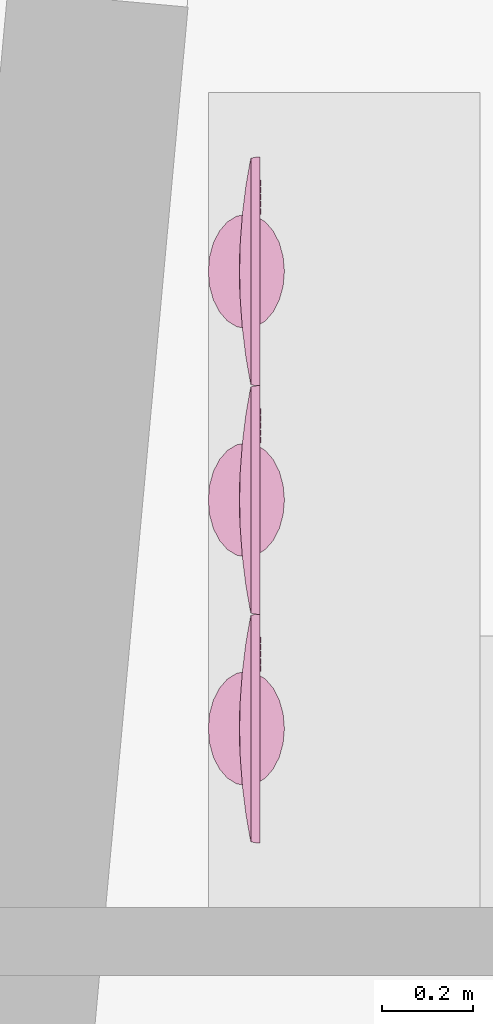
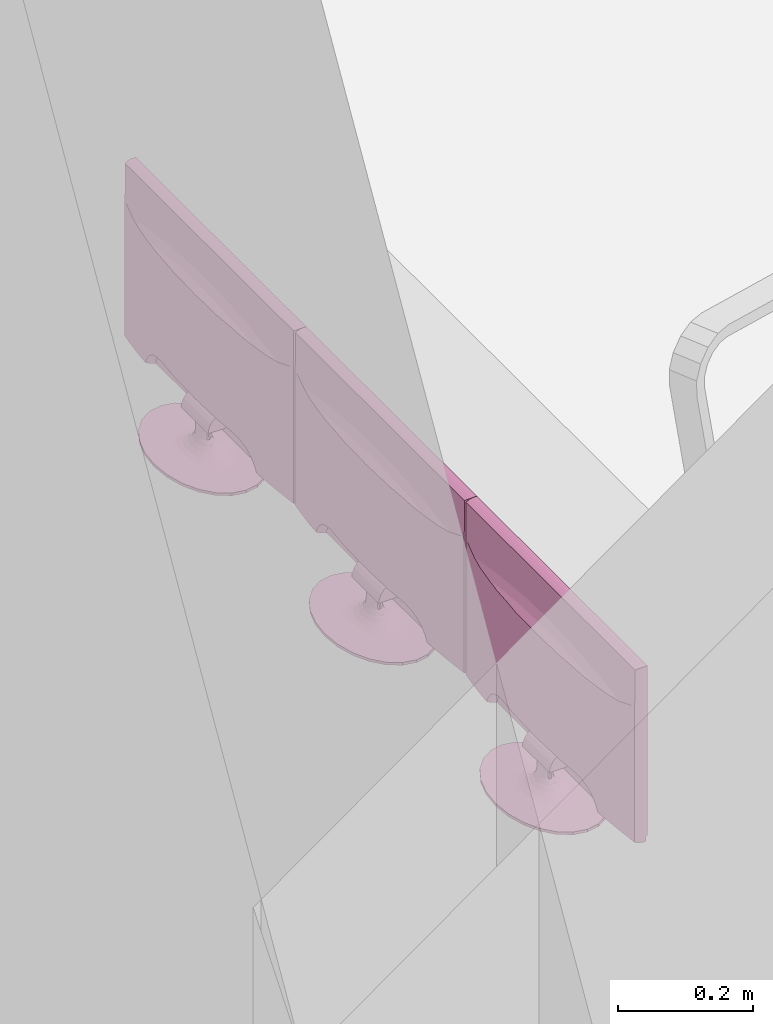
# One storey, part 34 of 36: 3 furnishings.
"""IFC2X3 building model written with IfcOpenShell, lengths in millimetres."""

import ifcopenshell
import ifcopenshell.guid

model = None  # the IFC model being written
_history = None  # IfcOwnerHistory: only IFC2X3 demands one
_inside = {}  # id of a spatial element -> (the spatial element, [elements in it])
_under = {}  # id of a project, library or spatial element -> (it, [spatial elements below it])
_declared = {}  # id of a project -> (the project, [libraries it declares])
_typed = {}  # id of a type object -> (the type object, [elements of that type])
_made_of = {}  # id of a material, layer set ... -> (it, [elements and type objects made of it])


def new_model(schema):
    """Start an empty IFC model of exactly this schema.

    Asked for "IFC4X3", IfcOpenShell would pick the latest addendum, in which some entities
    have other attributes; the version numbers below select the first issue.
    IFC2X3 requires an IfcOwnerHistory on every rooted entity: one is made here for all.
    """
    global model, _history
    if schema == "IFC4X3":
        model = ifcopenshell.file(schema_version=(4, 3, 0, 0))
    else:
        model = ifcopenshell.file(schema=schema)
    _inside.clear()
    _under.clear()
    _declared.clear()
    _typed.clear()
    _made_of.clear()
    _history = None
    if model.schema == "IFC2X3":
        org = make("IfcOrganization", Name="unknown")
        user = make(
            "IfcPersonAndOrganization",
            ThePerson=make("IfcPerson", FamilyName="unknown"),
            TheOrganization=org,
        )
        app = make(
            "IfcApplication",
            ApplicationDeveloper=org,
            Version="unknown",
            ApplicationFullName="unknown",
            ApplicationIdentifier="unknown",
        )
        _history = make(
            "IfcOwnerHistory",
            OwningUser=user,
            OwningApplication=app,
            ChangeAction="ADDED",
            CreationDate=0,
        )
    return model


def make(cls, **values):
    """One entity of the class cls with the attributes given. An attribute that is None is left unset."""
    return model.create_entity(
        cls, **{name: value for name, value in values.items() if value is not None}
    )


def entity(cls, *values):
    """Any entity or typed value of the class cls, its attributes in the order of the schema. None: left unset."""
    e = model.create_entity(cls)
    for i, value in enumerate(values):
        if value is not None:
            e[i] = value
    return e


def rooted(cls, **values):
    """An entity with a GlobalId (a new one), such as an element, a storey or a relation."""
    return make(cls, GlobalId=ifcopenshell.guid.new(), OwnerHistory=_history, **values)


def si_unit(unit_type, name, prefix=None):
    """IfcSIUnit, for example si_unit("LENGTHUNIT", "METRE", prefix="MILLI")."""
    return make("IfcSIUnit", UnitType=unit_type, Prefix=prefix, Name=name)


def converted_unit(unit_type, name, factor, base, dimensions=None, offset=None):
    """IfcConversionBasedUnit, such as the inch: factor (a typed value) times the base unit."""
    return make(
        "IfcConversionBasedUnit"
        if offset is None
        else "IfcConversionBasedUnitWithOffset",
        ConversionOffset=offset,
        Dimensions=None
        if dimensions is None
        else entity("IfcDimensionalExponents", *dimensions),
        UnitType=unit_type,
        Name=name,
        ConversionFactor=make(
            "IfcMeasureWithUnit", ValueComponent=factor, UnitComponent=base
        ),
    )


def money_unit(currency):
    """IfcMonetaryUnit."""
    return make("IfcMonetaryUnit", Currency=currency)


def assignment(units):
    """IfcUnitAssignment: the units of a project."""
    return None if units is None else make("IfcUnitAssignment", Units=units)


def point(xyz):
    """IfcCartesianPoint."""
    return None if xyz is None else make("IfcCartesianPoint", Coordinates=xyz)


def direction(xyz):
    """IfcDirection."""
    return None if xyz is None else make("IfcDirection", DirectionRatios=xyz)


def frame(location, z_axis=None, x_axis=None):
    """IfcAxis2Placement3D, a coordinate frame: its origin and axes. An axis left out is left unset."""
    return make(
        "IfcAxis2Placement3D",
        Location=point(location),
        Axis=direction(z_axis),
        RefDirection=direction(x_axis),
    )


def origin_with_axes():
    """The frame at (0, 0, 0) with the z axis (0, 0, 1) and the x axis (1, 0, 0) written out."""
    return frame((0.0, 0.0, 0.0), z_axis=(0.0, 0.0, 1.0), x_axis=(1.0, 0.0, 0.0))


def place(relative_to, where):
    """IfcLocalPlacement: puts the frame where relative to a parent placement (None: the world)."""
    return make(
        "IfcLocalPlacement", PlacementRelTo=relative_to, RelativePlacement=where
    )


def context(
    kind, dimensions, precision=None, world=None, true_north=None, identifier=None
):
    """IfcGeometricRepresentationContext, for example the 3D "Model" context."""
    return make(
        "IfcGeometricRepresentationContext",
        ContextIdentifier=identifier,
        ContextType=kind,
        CoordinateSpaceDimension=dimensions,
        Precision=precision,
        WorldCoordinateSystem=world,
        TrueNorth=true_north,
    )


def subcontext(parent, identifier, kind, view, scale=None):
    """IfcGeometricRepresentationSubContext, for example "Body" below "Model"."""
    return make(
        "IfcGeometricRepresentationSubContext",
        ContextIdentifier=identifier,
        ContextType=kind,
        ParentContext=parent,
        TargetScale=scale,
        TargetView=view,
    )


def project(units=None, contexts=None):
    """IfcProject with its units and contexts."""
    return rooted(
        "IfcProject",
        Name="project",
        RepresentationContexts=contexts,
        UnitsInContext=assignment(units),
    )


def spatial(cls, under=None, at=None, **own):
    """A site, building, storey or space (cls), placed at a placement, below another one or the project."""
    s = rooted(cls, ObjectPlacement=at, **own)
    if under is not None:
        _under.setdefault(under.id(), (under, []))[1].append(s)
    return s


def faces_of(points, faces, orient=None, outer=None):
    """IfcFace entities. A face is a list of loops; a loop is a list of indices into points, from 0.

    orient and outer hold one flag for each loop. By default every Orientation is true, the
    first loop of a face is its IfcFaceOuterBound and the others are IfcFaceBound.
    """
    made = []
    for i, loops in enumerate(faces):
        bounds = []
        for j, loop in enumerate(loops):
            is_outer = j == 0 if outer is None else outer[i][j]
            bounds.append(
                make(
                    "IfcFaceOuterBound" if is_outer else "IfcFaceBound",
                    Bound=make("IfcPolyLoop", Polygon=[points[k] for k in loop]),
                    Orientation=True if orient is None else orient[i][j],
                )
            )
        made.append(make("IfcFace", Bounds=bounds))
    return made


def faceted_brep(points, faces, orient=None, outer=None, voids=None):
    """IfcFacetedBrep: a solid bounded by flat faces; with voids (closed shells), ...WithVoids."""
    shared = [point(p) for p in points]
    hull = make("IfcClosedShell", CfsFaces=faces_of(shared, faces, orient, outer))
    if voids is None:
        return make("IfcFacetedBrep", Outer=hull)
    return make(
        "IfcFacetedBrepWithVoids",
        Outer=hull,
        Voids=[
            make(cls, CfsFaces=faces_of(shared, fs, o, b)) for cls, fs, o, b in voids
        ],
    )


def shape(context_of_items, identifier, shape_type, items):
    """IfcShapeRepresentation: the items that make up one representation, for example the "Body"."""
    return make(
        "IfcShapeRepresentation",
        ContextOfItems=context_of_items,
        RepresentationIdentifier=identifier,
        RepresentationType=shape_type,
        Items=items,
    )


def source(mapping_origin, context_of_items, identifier, shape_type, items):
    """IfcRepresentationMap: a shape defined once, which mapped items show again and again."""
    return make(
        "IfcRepresentationMap",
        MappingOrigin=mapping_origin,
        MappedRepresentation=shape(context_of_items, identifier, shape_type, items),
    )


def transform(
    local_origin,
    x_axis=None,
    y_axis=None,
    z_axis=None,
    scale=None,
    scale2=None,
    scale3=None,
    uniform=True,
):
    """IfcCartesianTransformationOperator3D, or its non-uniform kind. x_axis, y_axis, z_axis: its Axis1, 2, 3."""
    if uniform:
        return make(
            "IfcCartesianTransformationOperator3D",
            Axis1=direction(x_axis),
            Axis2=direction(y_axis),
            LocalOrigin=point(local_origin),
            Scale=scale,
            Axis3=direction(z_axis),
        )
    return make(
        "IfcCartesianTransformationOperator3DnonUniform",
        Axis1=direction(x_axis),
        Axis2=direction(y_axis),
        LocalOrigin=point(local_origin),
        Scale=scale,
        Axis3=direction(z_axis),
        Scale2=scale2,
        Scale3=scale3,
    )


def mapped(mapping_source, mapping_target):
    """IfcMappedItem: shows the shape of a source again, moved by a transform."""
    return make(
        "IfcMappedItem", MappingSource=mapping_source, MappingTarget=mapping_target
    )


def material(Name=None, Category=None):
    """IfcMaterial."""
    return make("IfcMaterial", Name=Name, Category=Category)


def material_list(materials):
    """IfcMaterialList."""
    return make("IfcMaterialList", Materials=materials)


def made_of(thing, what):
    """Note that an element or type object is made of a material, layer set ...; save() writes the relation."""
    if what is not None:
        _made_of.setdefault(what.id(), (what, []))[1].append(thing)
    return thing


def type_object(cls, material=None, **own):
    """A type object (cls), such as IfcWallType, which elements share."""
    return made_of(rooted(cls, **own), material)


def element(
    cls,
    number,
    at=None,
    inside=None,
    cuts=None,
    type_object=None,
    material=None,
    context=None,
    identifier="Body",
    shape_type=None,
    held_by="IfcProductDefinitionShape",
    body=None,
    shapes=None,
    **own,
):
    """One element of the class cls, such as IfcWall. Its Tag is "e" and its number.

    at: its placement. inside: the storey or other place that contains it. cuts: it is an
    opening in that element (IfcRelVoidsElement). A single representation is given by context,
    identifier, shape_type and body (its items); several are given by shapes. held_by: the class
    of the entity that holds the representations. save() writes the other relations.
    """
    e = rooted(cls, Tag="e%d" % number, ObjectPlacement=at, **own)
    if body is not None:
        shapes = [shape(context, identifier, shape_type, body)]
    if shapes is not None:
        e.Representation = make(held_by, Representations=shapes)
    if inside is not None:
        _inside.setdefault(inside.id(), (inside, []))[1].append(e)
    if cuts is not None:
        rooted(
            "IfcRelVoidsElement", RelatingBuildingElement=cuts, RelatedOpeningElement=e
        )
    if type_object is not None:
        _typed.setdefault(type_object.id(), (type_object, []))[1].append(e)
    return made_of(e, material)


def aggregate(whole, parts):
    """IfcRelAggregates: a whole, such as a stair, and the parts it consists of."""
    return rooted("IfcRelAggregates", RelatingObject=whole, RelatedObjects=parts)


def save(model, path):
    """Write the relations noted so far, then the file.

    IfcRelAggregates (storeys below a building ...), IfcRelContainedInSpatialStructure (elements
    in a storey), IfcRelDefinesByType, IfcRelAssociatesMaterial and IfcRelDeclares: one each for
    every whole, place, type object, material and project.
    """
    for whole, parts in _under.values():
        aggregate(whole, parts)
    for where, things in _inside.values():
        rooted(
            "IfcRelContainedInSpatialStructure",
            RelatedElements=things,
            RelatingStructure=where,
        )
    for kind, things in _typed.values():
        rooted("IfcRelDefinesByType", RelatedObjects=things, RelatingType=kind)
    for what, things in _made_of.values():
        rooted("IfcRelAssociatesMaterial", RelatedObjects=things, RelatingMaterial=what)
    for by, libraries in _declared.values():
        rooted("IfcRelDeclares", RelatingContext=by, RelatedDefinitions=libraries)
    model.write(path)


model = new_model("IFC2X3")

# Units and contexts
model_context = context("Model", 3, precision=1e-05, world=origin_with_axes(), true_north=direction((0.0, 1.0)))
body_context = subcontext(model_context, "Body", "Model", "MODEL_VIEW")
ifc_project = project(units=[si_unit("LENGTHUNIT", "METRE", prefix="MILLI"), si_unit("AREAUNIT", "SQUARE_METRE"), si_unit("VOLUMEUNIT", "CUBIC_METRE"), converted_unit("PLANEANGLEUNIT", "DEGREE", entity("IfcPlaneAngleMeasure", 0.0174532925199), si_unit("PLANEANGLEUNIT", "RADIAN"), dimensions=[0, 0, 0, 0, 0, 0, 0]), si_unit("SOLIDANGLEUNIT", "STERADIAN"), money_unit("USD"), converted_unit("TIMEUNIT", "Year", entity("IfcTimeMeasure", 31556926.0), si_unit("TIMEUNIT", "SECOND"), dimensions=[0, 0, 0, 0, 0, 0, 0]), si_unit("MASSUNIT", "GRAM"), si_unit("THERMODYNAMICTEMPERATUREUNIT", "DEGREE_CELSIUS"), si_unit("LUMINOUSINTENSITYUNIT", "LUMEN")], contexts=[model_context])

# Site, building, storey
site_placement = place(None, origin_with_axes())
site = spatial("IfcSite", under=ifc_project, at=site_placement, Name="Site", CompositionType="ELEMENT")
building_placement = place(site_placement, origin_with_axes())
building = spatial("IfcBuilding", under=site, at=building_placement, Name="Building", CompositionType="ELEMENT")
storey_placement = place(building_placement, frame((0.0, 0.0, -3400.0), z_axis=(0.0, 0.0, 1.0), x_axis=(1.0, 0.0, 0.0)))
storey = spatial("IfcBuildingStorey", under=building, at=storey_placement, Name="1KORRUS", CompositionType="ELEMENT", Elevation=-3400.0)

# Furnishings
ifc_material = material(Name="Background")
ifc_material_list = material_list([ifc_material])
furnishing_element_type = type_object("IfcFurnishingElementType", Name="LCD Monitor 19")
shared_shape = source(origin_with_axes(), body_context, "Body", "Brep", [
    faceted_brep([(20.0, 59.15, 85.0), (484.898, 59.15, 85.0), (484.898, 56.15, 85.0), (20.0, 56.15, 85.0), (20.0, 59.15, 346.505), (484.898, 59.15, 346.505), (484.898, 56.15, 346.505), (20.0, 56.15, 346.505)], [[[0, 1, 2, 3]], [[0, 4, 5, 1]], [[1, 5, 6, 2]], [[3, 2, 6, 7]], [[4, 0, 3, 7]], [[5, 4, 7, 6]]]),
    faceted_brep([(504.898, 56.65, 50.0), (504.898, 59.15, 50.0), (504.898, 59.15, 366.505), (504.898, 54.15, 366.505), (504.898, 54.15, 60.0), (504.898, 56.65, 60.0), (378.773, 59.15, 42.501), (378.773, 56.65, 42.501), (126.126, 59.15, 42.501), (0.0, 59.15, 50.0), (0.0, 59.15, 366.505), (252.449, 59.15, 40.0), (20.0, 59.15, 85.0), (484.898, 59.15, 85.0), (484.898, 59.15, 346.505), (20.0, 59.15, 346.505), (0.0, 54.15, 366.505), (315.673, 54.15, 46.877), (378.674, 54.15, 52.5), (441.675, 54.15, 58.123), (0.0, 54.15, 60.0), (63.224, 54.15, 58.123), (126.225, 54.15, 52.5), (189.226, 54.15, 46.877), (252.449, 54.15, 45.0), (20.0, 54.15, 85.0), (20.0, 54.15, 346.505), (484.898, 54.15, 346.505), (484.898, 54.15, 85.0), (441.675, 56.65, 58.123), (378.674, 56.65, 52.5), (315.673, 56.65, 46.877), (252.449, 56.65, 45.0), (189.226, 56.65, 46.877), (126.225, 56.65, 52.5), (63.224, 56.65, 58.123), (0.0, 56.65, 60.0), (0.0, 56.65, 50.0), (126.126, 56.65, 42.501), (252.449, 56.65, 40.0)], [[[0, 1, 2, 3, 4, 5]], [[6, 1, 0, 7]], [[8, 9, 10, 2, 1, 6, 11], [12, 13, 14, 15]], [[2, 10, 16, 3]], [[17, 18, 19, 4, 3, 16, 20, 21, 22, 23, 24], [25, 26, 27, 28]], [[19, 29, 5, 4]], [[7, 0, 5, 29, 30, 31, 32, 33, 34, 35, 36, 37, 38, 39]], [[11, 6, 7, 39]], [[9, 8, 38, 37]], [[9, 37, 36, 20, 16, 10]], [[8, 11, 39, 38]], [[13, 12, 25, 28]], [[14, 13, 28, 27]], [[15, 14, 27, 26]], [[12, 15, 26, 25]], [[31, 30, 18, 17]], [[30, 29, 19, 18]], [[36, 35, 21, 20]], [[35, 34, 22, 21]], [[34, 33, 23, 22]], [[33, 32, 24, 23]], [[32, 31, 17, 24]]]),
    faceted_brep([(504.846, 61.31, 366.453), (504.898, 59.15, 366.505), (504.898, 59.15, 50.0), (504.846, 61.31, 50.052), (0.052, 61.31, 366.453), (0.0, 59.15, 366.505), (0.0, 59.15, 50.0), (0.052, 61.31, 50.052), (504.689, 63.466, 366.296), (504.689, 63.466, 50.21), (0.21, 63.466, 366.296), (0.21, 63.466, 50.21), (504.427, 65.611, 366.034), (504.427, 65.611, 50.472), (0.472, 65.611, 366.034), (0.472, 65.611, 50.472), (504.061, 67.742, 365.668), (504.061, 67.742, 50.837), (0.837, 67.742, 365.668), (0.837, 67.742, 50.837), (503.748, 69.15, 365.355), (503.748, 69.15, 51.15), (1.15, 69.15, 365.355), (1.15, 69.15, 51.15)], [[[0, 1, 2, 3]], [[1, 0, 4, 5]], [[1, 5, 6, 2]], [[6, 7, 3, 2]], [[8, 0, 3, 9]], [[0, 8, 10, 4]], [[5, 4, 7, 6]], [[7, 11, 9, 3]], [[12, 8, 9, 13]], [[8, 12, 14, 10]], [[4, 10, 11, 7]], [[11, 15, 13, 9]], [[16, 12, 13, 17]], [[12, 16, 18, 14]], [[10, 14, 15, 11]], [[15, 19, 17, 13]], [[20, 16, 17, 21]], [[16, 20, 22, 18]], [[14, 18, 19, 15]], [[19, 23, 21, 17]], [[22, 20, 21, 23]], [[18, 22, 23, 19]]]),
    faceted_brep([(502.104, 74.637, 52.794), (502.104, 74.637, 305.38), (502.29, 74.15, 309.628), (502.29, 74.15, 363.897), (502.351, 73.991, 363.958), (502.351, 73.991, 52.548), (495.316, 75.822, 296.466), (494.236, 76.01, 53.318), (482.889, 77.99, 54.185), (471.798, 79.925, 55.147), (460.987, 81.811, 56.202), (450.482, 83.644, 57.348), (442.326, 85.067, 58.337), (442.326, 85.067, 286.488), (443.724, 84.823, 286.627), (457.448, 82.429, 287.821), (467.081, 80.748, 288.545), (471.429, 79.989, 289.823), (485.982, 77.45, 293.935), (486.929, 75.822, 298.327), (489.955, 74.15, 312.365), (14.944, 74.15, 312.365), (2.608, 74.15, 309.628), (2.608, 74.15, 363.897), (476.57, 74.15, 315.165), (463.153, 74.15, 317.803), (449.705, 74.15, 320.277), (436.227, 74.15, 322.588), (422.723, 74.15, 324.736), (409.193, 74.15, 326.72), (395.641, 74.15, 328.539), (382.067, 74.15, 330.194), (368.474, 74.15, 331.684), (354.865, 74.15, 333.009), (341.24, 74.15, 334.169), (327.602, 74.15, 335.163), (313.953, 74.15, 335.992), (300.295, 74.15, 336.655), (286.63, 74.15, 337.153), (272.959, 74.15, 337.485), (259.286, 74.15, 337.65), (245.612, 74.15, 337.65), (231.939, 74.15, 337.485), (218.269, 74.15, 337.153), (204.604, 74.15, 336.655), (190.946, 74.15, 335.992), (177.297, 74.15, 335.163), (163.659, 74.15, 334.169), (150.034, 74.15, 333.009), (136.424, 74.15, 331.684), (122.831, 74.15, 330.194), (109.258, 74.15, 328.539), (95.705, 74.15, 326.72), (82.176, 74.15, 324.736), (68.671, 74.15, 322.588), (55.194, 74.15, 320.277), (41.745, 74.15, 317.803), (28.328, 74.15, 315.165), (2.548, 73.991, 363.958), (503.022, 71.936, 51.877), (503.022, 71.936, 364.629), (419.097, 73.991, 52.548), (418.995, 76.01, 53.318), (418.881, 77.99, 54.185), (418.754, 79.925, 55.147), (418.704, 80.608, 55.529), (418.425, 81.811, 56.202), (417.951, 83.644, 57.348), (417.44, 85.419, 58.581), (439.488, 85.419, 58.581), (430.22, 86.569, 286.237), (425.675, 87.132, 59.899), (416.493, 88.271, 60.866), (412.71, 88.74, 70.0), (403.175, 89.923, 82.426), (390.749, 91.464, 91.962), (379.291, 92.884, 96.707), (379.291, 92.884, 286.154), (390.208, 91.531, 286.118), (403.463, 89.887, 285.913), (413.313, 88.665, 285.641), (416.772, 88.236, 285.796), (431.67, 80.748, 295.011), (444.813, 80.748, 292.757), (457.928, 80.748, 290.344), (460.469, 75.822, 303.696), (473.715, 75.822, 301.092), (9.583, 75.822, 296.466), (2.794, 74.637, 305.38), (17.969, 75.822, 298.327), (2.794, 74.637, 52.794), (2.548, 73.991, 52.548), (447.192, 75.822, 306.139), (433.886, 75.822, 308.421), (420.554, 75.822, 310.541), (407.196, 75.822, 312.499), (393.816, 75.822, 314.295), (380.416, 75.822, 315.929), (366.996, 75.822, 317.4), (353.56, 75.822, 318.708), (340.108, 75.822, 319.853), (326.644, 75.822, 320.835), (313.169, 75.822, 321.654), (299.685, 75.822, 322.308), (286.194, 75.822, 322.8), (272.698, 75.822, 323.127), (259.199, 75.822, 323.291), (245.699, 75.822, 323.291), (232.2, 75.822, 323.127), (218.704, 75.822, 322.8), (205.213, 75.822, 322.308), (191.729, 75.822, 321.654), (178.254, 75.822, 320.835), (164.79, 75.822, 319.853), (151.339, 75.822, 318.708), (137.902, 75.822, 317.4), (124.483, 75.822, 315.929), (111.082, 75.822, 314.295), (97.702, 75.822, 312.499), (84.345, 75.822, 310.541), (71.012, 75.822, 308.421), (57.707, 75.822, 306.139), (44.43, 75.822, 303.696), (31.183, 75.822, 301.092), (1.877, 71.936, 364.629), (419.185, 71.936, 51.877), (503.592, 69.851, 51.306), (503.592, 69.851, 365.199), (419.26, 69.851, 51.306), (419.281, 69.15, 51.15), (418.704, 69.15, 55.529), (416.894, 87.132, 59.899), (412.71, 69.15, 70.0), (403.175, 69.15, 82.426), (390.749, 69.15, 91.962), (376.278, 69.15, 97.956), (376.278, 93.108, 97.956), (376.983, 93.056, 286.272), (360.749, 94.26, 100.0), (315.948, 97.582, 100.0), (315.948, 97.582, 287.269), (324.407, 96.955, 287.352), (337.538, 95.981, 287.322), (350.679, 95.007, 287.132), (363.828, 94.031, 286.782), (377.462, 88.665, 290.412), (390.553, 88.665, 288.816), (403.624, 88.665, 287.061), (405.306, 80.748, 299.04), (418.5, 80.748, 297.105), (61.175, 84.823, 286.627), (62.572, 85.067, 286.488), (62.572, 85.067, 58.337), (54.416, 83.644, 57.348), (43.912, 81.811, 56.202), (33.101, 79.925, 55.147), (22.009, 77.99, 54.185), (10.662, 76.01, 53.318), (18.916, 77.45, 293.935), (33.47, 79.989, 289.823), (37.817, 80.748, 288.545), (47.45, 82.429, 287.821), (85.903, 76.01, 53.318), (85.802, 73.991, 52.548), (1.877, 71.936, 51.877), (392.09, 80.748, 300.814), (378.853, 80.748, 302.428), (365.597, 80.748, 303.881), (352.325, 80.748, 305.173), (339.038, 80.748, 306.304), (325.738, 80.748, 307.274), (312.428, 80.748, 308.082), (299.108, 80.748, 308.729), (285.782, 80.748, 309.214), (272.451, 80.748, 309.538), (259.117, 80.748, 309.7), (245.782, 80.748, 309.7), (232.448, 80.748, 309.538), (219.116, 80.748, 309.214), (205.79, 80.748, 308.729), (192.471, 80.748, 308.082), (179.16, 80.748, 307.274), (165.861, 80.748, 306.304), (152.574, 80.748, 305.173), (139.301, 80.748, 303.881), (126.046, 80.748, 302.428), (112.809, 80.748, 300.814), (99.592, 80.748, 299.04), (86.398, 80.748, 297.105), (73.228, 80.748, 295.011), (60.085, 80.748, 292.757), (46.97, 80.748, 290.344), (1.306, 69.851, 365.199), (503.748, 69.15, 51.15), (503.748, 69.15, 365.355), (1.15, 69.15, 365.355), (1.15, 69.15, 51.15), (85.618, 69.15, 51.15), (86.194, 69.15, 55.529), (92.188, 69.15, 70.0), (101.723, 69.15, 82.426), (114.15, 69.15, 91.962), (128.621, 69.15, 97.956), (144.15, 69.15, 100.0), (360.749, 69.15, 100.0), (144.15, 94.26, 100.0), (188.951, 97.582, 100.0), (252.449, 99.15, 100.0), (311.3, 97.697, 287.442), (252.449, 99.15, 287.65), (258.984, 98.988, 287.804), (272.058, 98.666, 287.951), (285.137, 98.343, 287.94), (298.218, 98.02, 287.771), (311.768, 88.665, 296.004), (324.932, 88.665, 295.205), (338.085, 88.665, 294.246), (351.226, 88.665, 293.127), (364.352, 88.665, 291.849), (74.678, 86.569, 286.237), (114.691, 91.531, 286.118), (125.607, 92.884, 286.154), (125.607, 92.884, 96.707), (114.15, 91.464, 91.962), (101.723, 89.923, 82.426), (92.188, 88.74, 70.0), (88.405, 88.271, 60.866), (79.223, 87.132, 59.899), (65.41, 85.419, 58.581), (88.126, 88.236, 285.796), (91.585, 88.665, 285.641), (101.435, 89.887, 285.913), (87.458, 85.419, 58.581), (86.948, 83.644, 57.348), (86.473, 81.811, 56.202), (86.194, 80.608, 55.529), (86.144, 79.925, 55.147), (86.017, 77.99, 54.185), (85.713, 71.936, 51.877), (85.638, 69.851, 51.306), (1.306, 69.851, 51.306), (298.595, 88.665, 296.644), (285.415, 88.665, 297.124), (272.231, 88.665, 297.444), (259.043, 88.665, 297.604), (245.855, 88.665, 297.604), (232.668, 88.665, 297.444), (219.483, 88.665, 297.124), (206.304, 88.665, 296.644), (193.131, 88.665, 296.004), (179.967, 88.665, 295.205), (166.813, 88.665, 294.246), (153.673, 88.665, 293.127), (140.546, 88.665, 291.849), (127.437, 88.665, 290.412), (114.345, 88.665, 288.816), (101.274, 88.665, 287.061), (88.004, 87.132, 59.899), (128.621, 93.108, 97.956), (180.492, 96.955, 287.352), (188.951, 97.582, 287.269), (127.916, 93.056, 286.272), (141.071, 94.031, 286.782), (154.22, 95.007, 287.132), (167.36, 95.981, 287.322), (245.914, 98.988, 287.804), (193.599, 97.697, 287.442), (206.681, 98.02, 287.771), (219.762, 98.343, 287.94), (232.84, 98.666, 287.951)], [[[0, 1, 2, 3, 4, 5]], [[6, 1, 0, 7, 8, 9, 10, 11, 12, 13, 14, 15, 16, 17, 18]], [[1, 6, 19, 20, 2]], [[21, 22, 23, 3, 2, 20, 24, 25, 26, 27, 28, 29, 30, 31, 32, 33, 34, 35, 36, 37, 38, 39, 40, 41, 42, 43, 44, 45, 46, 47, 48, 49, 50, 51, 52, 53, 54, 55, 56, 57]], [[23, 58, 4, 3]], [[59, 5, 4, 60]], [[7, 0, 5, 61, 62]], [[8, 7, 62, 63]], [[9, 8, 63, 64]], [[10, 9, 64, 65, 66]], [[11, 10, 66, 67]], [[12, 11, 67, 68, 69]], [[70, 13, 12, 69, 71, 72, 73, 74, 75, 76, 77, 78, 79, 80, 81]], [[13, 70, 82, 83, 14]], [[15, 14, 83, 84]], [[16, 15, 84]], [[17, 16, 84, 85, 86]], [[18, 17, 86, 19]], [[6, 18, 19]], [[24, 20, 19, 86]], [[87, 88, 22, 21, 89]], [[88, 90, 91, 58, 23, 22]], [[25, 24, 86, 85]], [[26, 25, 85, 92]], [[27, 26, 92, 93]], [[28, 27, 93, 94]], [[29, 28, 94, 95]], [[30, 29, 95, 96]], [[31, 30, 96, 97]], [[32, 31, 97, 98]], [[33, 32, 98, 99]], [[34, 33, 99, 100]], [[35, 34, 100, 101]], [[36, 35, 101, 102]], [[37, 36, 102, 103]], [[38, 37, 103, 104]], [[39, 38, 104, 105]], [[40, 39, 105, 106]], [[41, 40, 106, 107]], [[42, 41, 107, 108]], [[43, 42, 108, 109]], [[44, 43, 109, 110]], [[45, 44, 110, 111]], [[46, 45, 111, 112]], [[47, 46, 112, 113]], [[48, 47, 113, 114]], [[49, 48, 114, 115]], [[50, 49, 115, 116]], [[51, 50, 116, 117]], [[52, 51, 117, 118]], [[53, 52, 118, 119]], [[54, 53, 119, 120]], [[55, 54, 120, 121]], [[56, 55, 121, 122]], [[57, 56, 122, 123]], [[21, 57, 123, 89]], [[58, 124, 60, 4]], [[5, 59, 125, 61]], [[126, 59, 60, 127]], [[63, 62, 61, 125, 128, 129, 130, 65, 64]], [[73, 72, 131, 68, 67, 66, 65, 130, 132]], [[71, 69, 68, 131]], [[72, 71, 131]], [[74, 73, 132, 133]], [[75, 74, 133, 134]], [[76, 75, 134, 135, 136]], [[137, 77, 76, 136, 138, 139, 140, 141, 142, 143, 144]], [[77, 137, 145, 146, 78]], [[79, 78, 146, 147]], [[80, 79, 147]], [[81, 80, 147, 148, 149]], [[70, 81, 149, 82]], [[93, 92, 83, 82]], [[92, 85, 84, 83]], [[150, 151, 152, 153, 154, 155, 156, 157, 90, 88, 87, 158, 159, 160, 161]], [[158, 87, 89]], [[90, 157, 162, 163, 91]], [[91, 164, 124, 58]], [[94, 93, 82, 149]], [[95, 94, 149, 148]], [[96, 95, 148, 165]], [[97, 96, 165, 166]], [[98, 97, 166, 167]], [[99, 98, 167, 168]], [[100, 99, 168, 169]], [[101, 100, 169, 170]], [[102, 101, 170, 171]], [[103, 102, 171, 172]], [[104, 103, 172, 173]], [[105, 104, 173, 174]], [[106, 105, 174, 175]], [[107, 106, 175, 176]], [[108, 107, 176, 177]], [[109, 108, 177, 178]], [[110, 109, 178, 179]], [[111, 110, 179, 180]], [[112, 111, 180, 181]], [[113, 112, 181, 182]], [[114, 113, 182, 183]], [[115, 114, 183, 184]], [[116, 115, 184, 185]], [[117, 116, 185, 186]], [[118, 117, 186, 187]], [[119, 118, 187, 188]], [[120, 119, 188, 189]], [[121, 120, 189, 190]], [[122, 121, 190, 191]], [[160, 159, 123, 122, 191]], [[159, 158, 89, 123]], [[124, 192, 127, 60]], [[59, 126, 128, 125]], [[193, 126, 127, 194]], [[126, 193, 129, 128]], [[129, 193, 194, 195, 196, 197, 198, 199, 200, 201, 202, 203, 204, 135, 134, 133, 132, 130]], [[138, 136, 135, 204]], [[139, 138, 204, 203, 205, 206, 207]], [[208, 140, 139, 207, 209, 210, 211, 212, 213]], [[140, 208, 214, 215, 141]], [[142, 141, 215, 216]], [[143, 142, 216, 217]], [[144, 143, 217, 218]], [[137, 144, 218, 145]], [[166, 165, 146, 145]], [[165, 148, 147, 146]], [[151, 150, 190, 189, 219]], [[220, 221, 222, 223, 224, 225, 226, 227, 228, 152, 151, 219, 229, 230, 231]], [[152, 228, 232, 233, 153]], [[154, 153, 233, 234]], [[155, 154, 234, 235, 236]], [[156, 155, 236, 237]], [[157, 156, 237, 162]], [[161, 160, 191]], [[150, 161, 191, 190]], [[238, 163, 162, 237, 236, 235, 198, 197, 239]], [[163, 238, 164, 91]], [[164, 240, 192, 124]], [[167, 166, 145, 218]], [[168, 167, 218, 217]], [[169, 168, 217, 216]], [[170, 169, 216, 215]], [[171, 170, 215, 214]], [[172, 171, 214, 241]], [[173, 172, 241, 242]], [[174, 173, 242, 243]], [[175, 174, 243, 244]], [[176, 175, 244, 245]], [[177, 176, 245, 246]], [[178, 177, 246, 247]], [[179, 178, 247, 248]], [[180, 179, 248, 249]], [[181, 180, 249, 250]], [[182, 181, 250, 251]], [[183, 182, 251, 252]], [[184, 183, 252, 253]], [[185, 184, 253, 254]], [[186, 185, 254, 255]], [[187, 186, 255, 256]], [[230, 229, 188, 187, 256]], [[229, 219, 189, 188]], [[127, 192, 195, 194]], [[240, 196, 195, 192]], [[239, 197, 196, 240]], [[226, 225, 199, 198, 235, 234, 233, 232, 257]], [[225, 224, 200, 199]], [[224, 223, 201, 200]], [[222, 258, 202, 201, 223]], [[258, 205, 203, 202]], [[259, 260, 206, 205, 258, 222, 221, 261, 262, 263, 264]], [[265, 209, 207, 206, 260, 266, 267, 268, 269]], [[209, 265, 245, 244, 210]], [[211, 210, 244, 243]], [[212, 211, 243, 242]], [[213, 212, 242, 241]], [[208, 213, 241, 214]], [[221, 220, 255, 254, 261]], [[227, 226, 257]], [[228, 227, 257, 232]], [[231, 230, 256]], [[220, 231, 256, 255]], [[238, 239, 240, 164]], [[265, 269, 246, 245]], [[269, 268, 247, 246]], [[268, 267, 248, 247]], [[267, 266, 249, 248]], [[260, 259, 250, 249, 266]], [[259, 264, 251, 250]], [[264, 263, 252, 251]], [[263, 262, 253, 252]], [[262, 261, 254, 253]]]),
    faceted_brep([(212.449, 99.15, 60.0), (212.449, 98.128, 67.765), (292.449, 98.128, 67.765), (292.449, 99.15, 60.0), (212.449, 69.15, 60.0), (212.449, 69.15, 90.0), (212.449, 76.914, 88.978), (212.449, 84.15, 85.981), (212.449, 90.363, 81.213), (212.449, 95.13, 75.0), (292.449, 95.13, 75.0), (292.449, 90.363, 81.213), (292.449, 84.15, 85.981), (292.449, 76.914, 88.978), (292.449, 69.15, 90.0), (292.449, 69.15, 60.0)], [[[0, 1, 2, 3]], [[0, 4, 5, 6, 7, 8, 9, 1]], [[1, 9, 10, 2]], [[3, 2, 10, 11, 12, 13, 14, 15]], [[4, 0, 3, 15]], [[5, 4, 15, 14]], [[6, 5, 14, 13]], [[7, 6, 13, 12]], [[8, 7, 12, 11]], [[9, 8, 11, 10]]]),
    faceted_brep([(391.647, 56.65, 53.658), (391.647, 51.65, 53.658), (391.911, 51.65, 51.182), (391.911, 56.65, 51.182), (378.674, 51.65, 52.5), (378.674, 56.65, 52.5), (378.969, 51.65, 50.026), (378.969, 56.65, 50.026)], [[[0, 1, 2, 3]], [[4, 1, 0, 5]], [[1, 4, 6, 2]], [[6, 7, 3, 2]], [[5, 0, 3, 7]], [[4, 5, 7, 6]]]),
    faceted_brep([(407.392, 56.65, 55.063), (407.392, 51.65, 55.063), (407.62, 51.65, 52.584), (407.62, 56.65, 52.584), (394.426, 51.65, 53.906), (394.426, 56.65, 53.906), (394.684, 51.65, 51.429), (394.684, 56.65, 51.429)], [[[0, 1, 2, 3]], [[4, 1, 0, 5]], [[1, 4, 6, 2]], [[6, 7, 3, 2]], [[5, 0, 3, 7]], [[4, 5, 7, 6]]]),
    faceted_brep([(423.137, 56.65, 56.469), (423.137, 51.65, 56.469), (423.328, 51.65, 53.986), (423.328, 56.65, 53.986), (410.171, 51.65, 55.311), (410.171, 56.65, 55.311), (410.392, 51.65, 52.831), (410.392, 56.65, 52.831)], [[[0, 1, 2, 3]], [[4, 1, 0, 5]], [[1, 4, 6, 2]], [[6, 7, 3, 2]], [[5, 0, 3, 7]], [[4, 5, 7, 6]]]),
    faceted_brep([(438.887, 56.65, 57.875), (438.887, 51.65, 57.875), (439.041, 51.65, 55.388), (439.041, 56.65, 55.388), (425.916, 51.65, 56.717), (425.916, 56.65, 56.717), (426.1, 51.65, 54.233), (426.1, 56.65, 54.233)], [[[0, 1, 2, 3]], [[4, 1, 0, 5]], [[1, 4, 6, 2]], [[6, 7, 3, 2]], [[5, 0, 3, 7]], [[4, 5, 7, 6]]]),
    faceted_brep([(454.686, 56.65, 58.51), (454.686, 51.65, 58.51), (454.804, 51.65, 56.013), (454.804, 56.65, 56.013), (441.675, 51.65, 58.123), (441.675, 56.65, 58.123), (441.816, 51.65, 55.628), (441.816, 56.65, 55.628)], [[[0, 1, 2, 3]], [[4, 1, 0, 5]], [[1, 4, 6, 2]], [[6, 7, 3, 2]], [[5, 0, 3, 7]], [[4, 5, 7, 6]]]),
    faceted_brep([(248.567, 93.809, 70.0), (252.449, 94.15, 70.0), (252.449, 94.15, 38.66), (248.567, 93.809, 38.66), (244.949, 92.81, 70.0), (241.843, 91.221, 70.0), (239.459, 89.15, 70.0), (237.96, 86.738, 70.0), (237.449, 84.15, 70.0), (237.96, 81.562, 70.0), (239.459, 79.15, 70.0), (241.843, 77.079, 70.0), (244.949, 75.489, 70.0), (248.567, 74.49, 70.0), (252.449, 74.15, 70.0), (256.331, 74.49, 70.0), (259.949, 75.489, 70.0), (263.056, 77.079, 70.0), (265.44, 79.15, 70.0), (266.938, 81.562, 70.0), (267.449, 84.15, 70.0), (266.938, 86.738, 70.0), (265.44, 89.15, 70.0), (263.056, 91.221, 70.0), (259.949, 92.81, 70.0), (256.331, 93.809, 70.0), (256.331, 93.809, 38.66), (252.449, 95.297, 29.948), (248.122, 94.917, 29.948), (244.949, 92.81, 38.66), (241.843, 91.221, 38.66), (239.459, 89.15, 38.66), (237.96, 86.738, 38.66), (237.449, 84.15, 38.66), (237.96, 81.562, 38.66), (239.459, 79.15, 38.66), (241.843, 77.079, 38.66), (244.949, 75.489, 38.66), (248.567, 74.49, 38.66), (252.449, 74.15, 38.66), (256.331, 74.49, 38.66), (259.949, 75.489, 38.66), (263.056, 77.079, 38.66), (265.44, 79.15, 38.66), (266.938, 81.562, 38.66), (267.449, 84.15, 38.66), (266.938, 86.738, 38.66), (265.44, 89.15, 38.66), (263.056, 91.221, 38.66), (259.949, 92.81, 38.66), (256.777, 94.917, 29.948), (252.449, 98.659, 21.83), (246.816, 98.165, 21.83), (244.089, 93.803, 29.948), (240.626, 92.032, 29.948), (237.969, 89.723, 29.948), (236.299, 87.035, 29.948), (235.729, 84.15, 29.948), (236.299, 81.265, 29.948), (237.969, 78.576, 29.948), (240.626, 76.268, 29.948), (244.089, 74.496, 29.948), (248.122, 73.383, 29.948), (252.449, 73.003, 29.948), (256.777, 73.383, 29.948), (260.809, 74.496, 29.948), (264.272, 76.268, 29.948), (266.929, 78.576, 29.948), (268.6, 81.265, 29.948), (269.17, 84.15, 29.948), (268.6, 87.035, 29.948), (266.929, 89.723, 29.948), (264.272, 92.032, 29.948), (260.809, 93.803, 29.948), (258.082, 98.165, 21.83), (252.449, 104.008, 14.859), (244.739, 103.332, 14.859), (241.567, 96.715, 21.83), (237.059, 94.41, 21.83), (233.601, 91.405, 21.83), (231.426, 87.905, 21.83), (230.685, 84.15, 21.83), (231.426, 80.394, 21.83), (233.601, 76.895, 21.83), (237.059, 73.89, 21.83), (241.567, 71.584, 21.83), (246.816, 70.135, 21.83), (252.449, 69.64, 21.83), (258.082, 70.135, 21.83), (263.331, 71.584, 21.83), (267.839, 73.89, 21.83), (271.298, 76.895, 21.83), (273.472, 80.394, 21.83), (274.214, 84.15, 21.83), (273.472, 87.905, 21.83), (271.298, 91.405, 21.83), (267.839, 94.41, 21.83), (263.331, 96.715, 21.83), (260.159, 103.332, 14.859), (252.449, 110.98, 9.51), (242.033, 110.065, 9.51), (237.555, 101.348, 14.859), (231.386, 98.192, 14.859), (226.652, 94.079, 14.859), (223.676, 89.29, 14.859), (222.661, 84.15, 14.859), (223.676, 79.01, 14.859), (226.652, 74.22, 14.859), (231.386, 70.107, 14.859), (237.555, 66.952, 14.859), (244.739, 64.968, 14.859), (252.449, 64.291, 14.859), (260.159, 64.968, 14.859), (267.343, 66.952, 14.859), (273.513, 70.107, 14.859), (278.246, 74.22, 14.859), (281.222, 79.01, 14.859), (282.237, 84.15, 14.859), (281.222, 89.29, 14.859), (278.246, 94.079, 14.859), (273.513, 98.192, 14.859), (267.343, 101.348, 14.859), (262.865, 110.065, 9.51), (252.449, 119.098, 6.147), (238.881, 117.907, 6.147), (232.327, 107.385, 9.51), (223.992, 103.121, 9.51), (217.596, 97.565, 9.51), (213.576, 91.094, 9.51), (212.204, 84.15, 9.51), (213.576, 77.206, 9.51), (217.596, 70.735, 9.51), (223.992, 65.178, 9.51), (232.327, 60.914, 9.51), (242.033, 58.234, 9.51), (252.449, 57.32, 9.51), (262.865, 58.234, 9.51), (272.572, 60.914, 9.51), (280.907, 65.178, 9.51), (287.302, 70.735, 9.51), (291.323, 77.206, 9.51), (292.694, 84.15, 9.51), (291.323, 91.094, 9.51), (287.302, 97.565, 9.51), (280.907, 103.121, 9.51), (272.572, 107.385, 9.51), (266.017, 117.907, 6.147), (252.449, 127.81, 5.0), (235.499, 126.322, 5.0), (226.238, 114.416, 6.147), (215.381, 108.862, 6.147), (207.05, 101.624, 6.147), (201.813, 93.195, 6.147), (200.027, 84.15, 6.147), (201.813, 75.105, 6.147), (207.05, 66.676, 6.147), (215.381, 59.438, 6.147), (226.238, 53.884, 6.147), (238.881, 50.392, 6.147), (252.449, 49.202, 6.147), (266.017, 50.392, 6.147), (278.66, 53.884, 6.147), (289.517, 59.438, 6.147), (297.848, 66.676, 6.147), (303.085, 75.105, 6.147), (304.871, 84.15, 6.147), (303.085, 93.195, 6.147), (297.848, 101.624, 6.147), (289.517, 108.862, 6.147), (278.66, 114.416, 6.147), (269.399, 126.322, 5.0), (252.449, 168.299, 5.0), (219.78, 165.432, 5.0), (219.704, 121.96, 5.0), (206.141, 115.022, 5.0), (195.733, 105.98, 5.0), (189.191, 95.45, 5.0), (186.959, 84.15, 5.0), (189.191, 72.85, 5.0), (195.733, 62.32, 5.0), (206.141, 53.278, 5.0), (219.704, 46.339, 5.0), (235.499, 41.978, 5.0), (252.449, 40.49, 5.0), (269.399, 41.978, 5.0), (285.194, 46.339, 5.0), (298.758, 53.278, 5.0), (309.165, 62.32, 5.0), (315.708, 72.85, 5.0), (317.939, 84.15, 5.0), (315.708, 95.45, 5.0), (309.165, 105.98, 5.0), (298.758, 115.022, 5.0), (285.194, 121.96, 5.0), (285.119, 165.432, 5.0), (252.449, 168.299, 0.0), (219.78, 165.432, 0.0), (189.337, 157.026, 5.0), (163.195, 143.653, 5.0), (143.135, 126.225, 5.0), (130.526, 105.929, 5.0), (126.225, 84.15, 5.0), (130.526, 62.37, 5.0), (143.135, 42.075, 5.0), (163.195, 24.647, 5.0), (189.337, 11.274, 5.0), (219.78, 2.867, 5.0), (252.449, 0.0, 5.0), (285.119, 2.867, 5.0), (315.561, 11.274, 5.0), (341.703, 24.647, 5.0), (361.763, 42.075, 5.0), (374.373, 62.37, 5.0), (378.674, 84.15, 5.0), (374.373, 105.929, 5.0), (361.763, 126.225, 5.0), (341.703, 143.653, 5.0), (315.561, 157.026, 5.0), (285.119, 165.432, 0.0), (315.561, 157.026, 0.0), (341.703, 143.653, 0.0), (361.763, 126.225, 0.0), (374.373, 105.929, 0.0), (378.674, 84.15, 0.0), (374.373, 62.37, 0.0), (361.763, 42.075, 0.0), (341.703, 24.647, 0.0), (315.561, 11.274, 0.0), (285.119, 2.867, 0.0), (252.449, 0.0, 0.0), (219.78, 2.867, 0.0), (189.337, 11.274, 0.0), (163.195, 24.647, 0.0), (143.135, 42.075, 0.0), (130.526, 62.37, 0.0), (126.225, 84.15, 0.0), (130.526, 105.929, 0.0), (143.135, 126.225, 0.0), (163.195, 143.653, 0.0), (189.337, 157.026, 0.0)], [[[0, 1, 2, 3]], [[1, 0, 4, 5, 6, 7, 8, 9, 10, 11, 12, 13, 14, 15, 16, 17, 18, 19, 20, 21, 22, 23, 24, 25]], [[1, 25, 26, 2]], [[3, 2, 27, 28]], [[4, 0, 3, 29]], [[5, 4, 29, 30]], [[6, 5, 30, 31]], [[7, 6, 31, 32]], [[8, 7, 32, 33]], [[9, 8, 33, 34]], [[10, 9, 34, 35]], [[11, 10, 35, 36]], [[12, 11, 36, 37]], [[13, 12, 37, 38]], [[14, 13, 38, 39]], [[15, 14, 39, 40]], [[16, 15, 40, 41]], [[17, 16, 41, 42]], [[18, 17, 42, 43]], [[19, 18, 43, 44]], [[20, 19, 44, 45]], [[21, 20, 45, 46]], [[22, 21, 46, 47]], [[23, 22, 47, 48]], [[24, 23, 48, 49]], [[25, 24, 49, 26]], [[2, 26, 50, 27]], [[28, 27, 51, 52]], [[29, 3, 28, 53]], [[30, 29, 53, 54]], [[31, 30, 54, 55]], [[32, 31, 55, 56]], [[33, 32, 56, 57]], [[34, 33, 57, 58]], [[35, 34, 58, 59]], [[36, 35, 59, 60]], [[37, 36, 60, 61]], [[38, 37, 61, 62]], [[39, 38, 62, 63]], [[40, 39, 63, 64]], [[41, 40, 64, 65]], [[42, 41, 65, 66]], [[43, 42, 66, 67]], [[44, 43, 67, 68]], [[45, 44, 68, 69]], [[46, 45, 69, 70]], [[47, 46, 70, 71]], [[48, 47, 71, 72]], [[49, 48, 72, 73]], [[26, 49, 73, 50]], [[27, 50, 74, 51]], [[52, 51, 75, 76]], [[53, 28, 52, 77]], [[54, 53, 77, 78]], [[55, 54, 78, 79]], [[56, 55, 79, 80]], [[57, 56, 80, 81]], [[58, 57, 81, 82]], [[59, 58, 82, 83]], [[60, 59, 83, 84]], [[61, 60, 84, 85]], [[62, 61, 85, 86]], [[63, 62, 86, 87]], [[64, 63, 87, 88]], [[65, 64, 88, 89]], [[66, 65, 89, 90]], [[67, 66, 90, 91]], [[68, 67, 91, 92]], [[69, 68, 92, 93]], [[70, 69, 93, 94]], [[71, 70, 94, 95]], [[72, 71, 95, 96]], [[73, 72, 96, 97]], [[50, 73, 97, 74]], [[51, 74, 98, 75]], [[76, 75, 99, 100]], [[77, 52, 76, 101]], [[78, 77, 101, 102]], [[79, 78, 102, 103]], [[80, 79, 103, 104]], [[81, 80, 104, 105]], [[82, 81, 105, 106]], [[83, 82, 106, 107]], [[84, 83, 107, 108]], [[85, 84, 108, 109]], [[86, 85, 109, 110]], [[87, 86, 110, 111]], [[88, 87, 111, 112]], [[89, 88, 112, 113]], [[90, 89, 113, 114]], [[91, 90, 114, 115]], [[92, 91, 115, 116]], [[93, 92, 116, 117]], [[94, 93, 117, 118]], [[95, 94, 118, 119]], [[96, 95, 119, 120]], [[97, 96, 120, 121]], [[74, 97, 121, 98]], [[75, 98, 122, 99]], [[100, 99, 123, 124]], [[101, 76, 100, 125]], [[102, 101, 125, 126]], [[103, 102, 126, 127]], [[104, 103, 127, 128]], [[105, 104, 128, 129]], [[106, 105, 129, 130]], [[107, 106, 130, 131]], [[108, 107, 131, 132]], [[109, 108, 132, 133]], [[110, 109, 133, 134]], [[111, 110, 134, 135]], [[112, 111, 135, 136]], [[113, 112, 136, 137]], [[114, 113, 137, 138]], [[115, 114, 138, 139]], [[116, 115, 139, 140]], [[117, 116, 140, 141]], [[118, 117, 141, 142]], [[119, 118, 142, 143]], [[120, 119, 143, 144]], [[121, 120, 144, 145]], [[98, 121, 145, 122]], [[99, 122, 146, 123]], [[124, 123, 147, 148]], [[125, 100, 124, 149]], [[126, 125, 149, 150]], [[127, 126, 150, 151]], [[128, 127, 151, 152]], [[129, 128, 152, 153]], [[130, 129, 153, 154]], [[131, 130, 154, 155]], [[132, 131, 155, 156]], [[133, 132, 156, 157]], [[134, 133, 157, 158]], [[135, 134, 158, 159]], [[136, 135, 159, 160]], [[137, 136, 160, 161]], [[138, 137, 161, 162]], [[139, 138, 162, 163]], [[140, 139, 163, 164]], [[141, 140, 164, 165]], [[142, 141, 165, 166]], [[143, 142, 166, 167]], [[144, 143, 167, 168]], [[145, 144, 168, 169]], [[122, 145, 169, 146]], [[123, 146, 170, 147]], [[148, 147, 171, 172]], [[149, 124, 148, 173]], [[150, 149, 173, 174]], [[151, 150, 174, 175]], [[152, 151, 175, 176]], [[153, 152, 176, 177]], [[154, 153, 177, 178]], [[155, 154, 178, 179]], [[156, 155, 179, 180]], [[157, 156, 180, 181]], [[158, 157, 181, 182]], [[159, 158, 182, 183]], [[160, 159, 183, 184]], [[161, 160, 184, 185]], [[162, 161, 185, 186]], [[163, 162, 186, 187]], [[164, 163, 187, 188]], [[165, 164, 188, 189]], [[166, 165, 189, 190]], [[167, 166, 190, 191]], [[168, 167, 191, 192]], [[169, 168, 192, 193]], [[146, 169, 193, 170]], [[147, 170, 194, 171]], [[172, 171, 195, 196]], [[173, 148, 172, 197]], [[174, 173, 197, 198]], [[175, 174, 198, 199]], [[176, 175, 199, 200]], [[177, 176, 200, 201]], [[178, 177, 201, 202]], [[179, 178, 202, 203]], [[180, 179, 203, 204]], [[181, 180, 204, 205]], [[182, 181, 205, 206]], [[183, 182, 206, 207]], [[184, 183, 207, 208]], [[185, 184, 208, 209]], [[186, 185, 209, 210]], [[187, 186, 210, 211]], [[188, 187, 211, 212]], [[189, 188, 212, 213]], [[190, 189, 213, 214]], [[191, 190, 214, 215]], [[192, 191, 215, 216]], [[193, 192, 216, 217]], [[170, 193, 217, 194]], [[171, 194, 218, 195]], [[195, 218, 219, 220, 221, 222, 223, 224, 225, 226, 227, 228, 229, 230, 231, 232, 233, 234, 235, 236, 237, 238, 239, 196]], [[197, 172, 196, 239]], [[198, 197, 239, 238]], [[199, 198, 238, 237]], [[200, 199, 237, 236]], [[201, 200, 236, 235]], [[202, 201, 235, 234]], [[203, 202, 234, 233]], [[204, 203, 233, 232]], [[205, 204, 232, 231]], [[206, 205, 231, 230]], [[207, 206, 230, 229]], [[208, 207, 229, 228]], [[209, 208, 228, 227]], [[210, 209, 227, 226]], [[211, 210, 226, 225]], [[212, 211, 225, 224]], [[213, 212, 224, 223]], [[214, 213, 223, 222]], [[215, 214, 222, 221]], [[216, 215, 221, 220]], [[217, 216, 220, 219]], [[194, 217, 219, 218]]]),
])
for number, where, z_axis, x_axis, name in (
    (1, (-57418.7146915, -10200.101867, 750.0), (0.0, 0.0, 1.0), (0.0, 1.0, 0.0), "FU - 010"),
    (2, (-57418.7146915, -10705.0002585, 750.0), (0.0, 0.0, 1.0), (0.0, 1.0, 0.0), "FU - 010"),
    (3, (-57418.7146915, -9695.20347545, 750.0), (0.0, 0.0, 1.0), (0.0, 1.0, 0.0), "FU - 010"),
):
    element("IfcFurnishingElement", number, at=place(storey_placement, frame(where, z_axis=z_axis, x_axis=x_axis)), inside=storey, type_object=furnishing_element_type, material=ifc_material_list, Name=name, context=body_context, shape_type="MappedRepresentation", body=[
        mapped(shared_shape, transform((0.0, 0.0, 0.0))),
    ])

save(model, "model.ifc")
